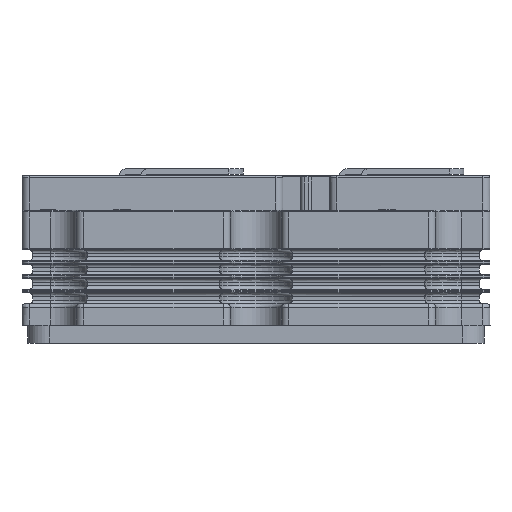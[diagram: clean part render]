
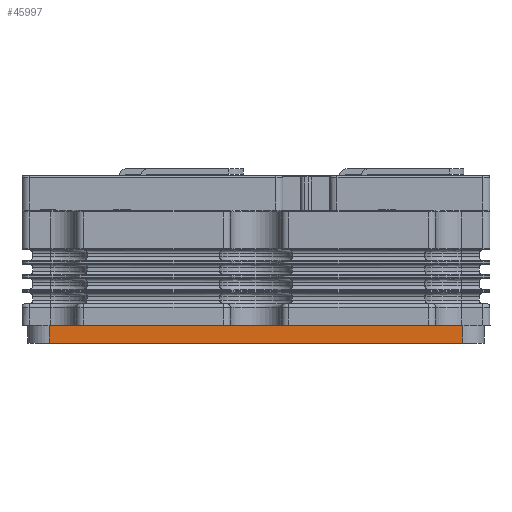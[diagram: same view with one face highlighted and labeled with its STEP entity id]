
A CAD part, front view. The second image highlights one B-rep face of the part: STEP entity #45997.
In plain terms, the highlighted planar face has unit normal (0, -1, 0).
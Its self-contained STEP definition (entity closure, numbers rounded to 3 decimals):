
#45741 = VERTEX_POINT ( 'NONE', #57387 ) ;
#45748 = VERTEX_POINT ( 'NONE', #57423 ) ;
#45751 = EDGE_CURVE ( 'NONE', #45741, #45748, #57430, .T. ) ;
#45920 = VERTEX_POINT ( 'NONE', #57589 ) ;
#45924 = VERTEX_POINT ( 'NONE', #57573 ) ;
#45940 = EDGE_CURVE ( 'NONE', #45924, #45741, #57619, .T. ) ;
#45946 = EDGE_CURVE ( 'NONE', #45920, #45748, #57657, .T. ) ;
#45953 = VERTEX_POINT ( 'NONE', #57658 ) ;
#45994 = ORIENTED_EDGE ( 'NONE', *, *, #46010, .F. ) ;
#45995 = VERTEX_POINT ( 'NONE', #57683 ) ;
#45996 = VERTEX_POINT ( 'NONE', #57678 ) ;
#45997 = ADVANCED_FACE ( 'NONE', ( #57676 ), #57679, .T. ) ;
#45999 = ORIENTED_EDGE ( 'NONE', *, *, #46006, .F. ) ;
#46001 = ORIENTED_EDGE ( 'NONE', *, *, #46002, .F. ) ;
#46002 = EDGE_CURVE ( 'NONE', #45996, #45920, #57688, .T. ) ;
#46004 = VERTEX_POINT ( 'NONE', #57350 ) ;
#46006 = EDGE_CURVE ( 'NONE', #45995, #45996, #56441, .T. ) ;
#46010 = EDGE_CURVE ( 'NONE', #45924, #45953, #57672, .T. ) ;
#46011 = EDGE_CURVE ( 'NONE', #46004, #45995, #57731, .T. ) ;
#46025 = EDGE_LOOP ( 'NONE', ( #46050, #46032, #46001, #45999, #46111, #46115, #45994, #46119 ) ) ;
#46032 = ORIENTED_EDGE ( 'NONE', *, *, #45946, .F. ) ;
#46050 = ORIENTED_EDGE ( 'NONE', *, *, #45751, .T. ) ;
#46111 = ORIENTED_EDGE ( 'NONE', *, *, #46011, .F. ) ;
#46113 = EDGE_CURVE ( 'NONE', #45953, #46004, #57805, .T. ) ;
#46115 = ORIENTED_EDGE ( 'NONE', *, *, #46113, .F. ) ;
#46119 = ORIENTED_EDGE ( 'NONE', *, *, #45940, .T. ) ;
#56187 = CARTESIAN_POINT ( 'NONE',  ( -57.45, -68.45, 5. ) ) ;
#56441 = LINE ( 'NONE', #56944, #56948 ) ;
#56904 = DIRECTION ( 'NONE',  ( 1., 0., 0. ) ) ;
#56944 = CARTESIAN_POINT ( 'NONE',  ( -57.45, -68.45, 5. ) ) ;
#56945 = VECTOR ( 'NONE', #56904, 1000. ) ;
#56947 = DIRECTION ( 'NONE',  ( 1., 0., 0. ) ) ;
#56948 = VECTOR ( 'NONE', #56947, 1000. ) ;
#57350 = CARTESIAN_POINT ( 'NONE',  ( -7.151, -68.45, 5. ) ) ;
#57387 = CARTESIAN_POINT ( 'NONE',  ( -57.45, -68.45, 0. ) ) ;
#57412 = DIRECTION ( 'NONE',  ( 1., 0., 0. ) ) ;
#57423 = CARTESIAN_POINT ( 'NONE',  ( 57.45, -68.45, 0. ) ) ;
#57429 = CARTESIAN_POINT ( 'NONE',  ( -57.45, -68.45, 0. ) ) ;
#57430 = LINE ( 'NONE', #57429, #57435 ) ;
#57435 = VECTOR ( 'NONE', #57412, 1000. ) ;
#57573 = CARTESIAN_POINT ( 'NONE',  ( -57.45, -68.45, 5. ) ) ;
#57589 = CARTESIAN_POINT ( 'NONE',  ( 57.45, -68.45, 5. ) ) ;
#57619 = LINE ( 'NONE', #57667, #57666 ) ;
#57654 = DIRECTION ( 'NONE',  ( 0., 0., -1. ) ) ;
#57655 = VECTOR ( 'NONE', #57654, 1000. ) ;
#57656 = CARTESIAN_POINT ( 'NONE',  ( 57.45, -68.45, 5. ) ) ;
#57657 = LINE ( 'NONE', #57656, #57655 ) ;
#57658 = CARTESIAN_POINT ( 'NONE',  ( -49.849, -68.45, 5. ) ) ;
#57665 = DIRECTION ( 'NONE',  ( 0., 0., -1. ) ) ;
#57666 = VECTOR ( 'NONE', #57665, 1000. ) ;
#57667 = CARTESIAN_POINT ( 'NONE',  ( -57.45, -68.45, 5. ) ) ;
#57671 = VECTOR ( 'NONE', #57681, 1000. ) ;
#57672 = LINE ( 'NONE', #56187, #56945 ) ;
#57673 = DIRECTION ( 'NONE',  ( 1., 0., 0. ) ) ;
#57674 = DIRECTION ( 'NONE',  ( 0., -1., 0. ) ) ;
#57675 = CARTESIAN_POINT ( 'NONE',  ( -57.45, -68.45, 5. ) ) ;
#57676 = FACE_OUTER_BOUND ( 'NONE', #46025, .T. ) ;
#57678 = CARTESIAN_POINT ( 'NONE',  ( 49.849, -68.45, 5. ) ) ;
#57679 = PLANE ( 'NONE',  #57687 ) ;
#57681 = DIRECTION ( 'NONE',  ( 1., 0., 0. ) ) ;
#57682 = CARTESIAN_POINT ( 'NONE',  ( -57.45, -68.45, 5. ) ) ;
#57683 = CARTESIAN_POINT ( 'NONE',  ( 7.151, -68.45, 5. ) ) ;
#57687 = AXIS2_PLACEMENT_3D ( 'NONE', #57675, #57674, #57673 ) ;
#57688 = LINE ( 'NONE', #57682, #57671 ) ;
#57728 = DIRECTION ( 'NONE',  ( 1., 0., 0. ) ) ;
#57729 = VECTOR ( 'NONE', #57728, 1000. ) ;
#57730 = CARTESIAN_POINT ( 'NONE',  ( -57.45, -68.45, 5. ) ) ;
#57731 = LINE ( 'NONE', #57730, #57729 ) ;
#57802 = DIRECTION ( 'NONE',  ( 1., 0., 0. ) ) ;
#57803 = VECTOR ( 'NONE', #57802, 1000. ) ;
#57804 = CARTESIAN_POINT ( 'NONE',  ( -57.45, -68.45, 5. ) ) ;
#57805 = LINE ( 'NONE', #57804, #57803 ) ;
